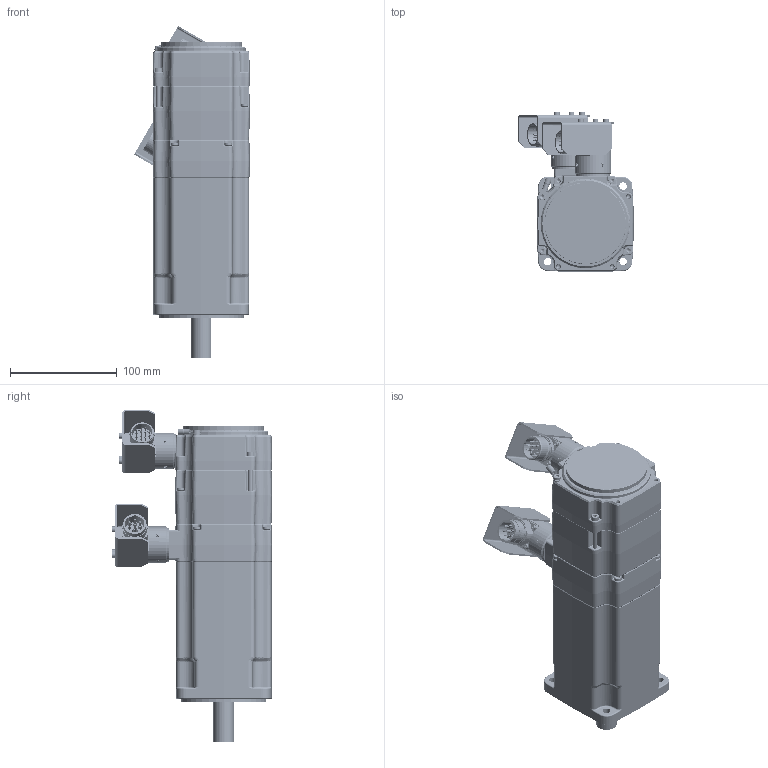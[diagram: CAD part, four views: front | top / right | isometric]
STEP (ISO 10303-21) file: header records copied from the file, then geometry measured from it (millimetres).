
FILE_DESCRIPTION((''),'2;1');
FILE_NAME('EY430EAR7310_ASM','2016-10-19T',('pf73167'),(''),'PRO/ENGINEER BY PARAMETRIC TECHNOLOGY CORPORATION, 2009400','PRO/ENGINEER BY PARAMETRIC TECHNOLOGY CORPORATION, 2009400','');
FILE_SCHEMA(('CONFIG_CONTROL_DESIGN'));
Length unit declared in the file: millimetre
Products named in the file (79): 344176P0027; 5116P1308; 1613P0123; 344174P0004; 344171P0002; 344212P0002; 344171P0002_ASM; 344175R0004_ASM; 5116P1315; 1711P0005; 1645P0017; 344170P0002; 344225R3000; 344561P0001; 344570P0002_ENROULE; 344228R3000_ASM; 344172P0010; 344173R3008_ASM; 5340P0069; 5320P0033; 1143P0415; 1821P0015; 1613P0043; 1613P0044; 1317P0303; 283154_05_P1BF102_AF0; 283154_05_P1F501_AF0; 283154P0037_ASM; 1150P0305; 344180P0001; 1613P0034; 1613P0035; 282280P0012; 220005P1002; 344509P0001; 343702P0002; 344094P0001; BOB_343505R0001; 343505R0001_ASM; 343703P0001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
Assembly tree (181 placements, depth 6):
  EY430EAR7310_ASM
    344176P0027
    5116P1308
    1613P0123
    344175R0004_ASM
      344174P0004
      344171P0002_ASM
        344171P0002  x10
        344212P0002  x2
    5116P1315
    1711P0005
    1645P0017  x2
    344173R3008_ASM
      344228R3000_ASM
        344170P0002
        344225R3000  x6
        344561P0001  x2
        344570P0002_ENROULE  x2
      344172P0010
    5340P0069  x3
    5320P0033
    1143P0415  x6
    1821P0015  x2
    1613P0043  x4
    1613P0044  x2
    1317P0303
    283154P0037_ASM
      283154_05_P1BF102_AF0
      283154_05_P1F501_AF0
    1150P0305  x4
    344180P0001
    1613P0034
    1613P0035
    282280P0012
    220005P1002
    344509P0001
    220005P0025_ASM
      343777R0002_ASM
        343776R0002_ASM
          343702P0002
          343505R0001_ASM
            344094P0001
            BOB_343505R0001
          343703P0001
          343761P0001
        343775R0001_ASM
          343503R0001_ASM
            343486P0001  x10
          BOB_343775R0001
        343827P0001
      343774R0001_ASM
        343504R0001_ASM
          343704P0001
          343717P0001
          343485P0001  x8
        BOB_343774_0001
    1643P0104  x3
    1143P0405  x3
    344180P0018
    1642P0104
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Bounding box: 108.48 x 150.2 x 310.74 mm (x, y, z)
Volume: 1425233.6 mm3; surface area: 553761.4 mm2
Topology: 171 solids, 172 shells, 10706 faces, 27429 edges, 17303 vertices
Faces by surface type: plane 4251, cylinder 4051, cone 1084, bspline 820, torus 452, sphere 28, extrusion 20
Entity records: 176646 total; most frequent: CARTESIAN_POINT 58140, ORIENTED_EDGE 24552, DIRECTION 24189, EDGE_CURVE 12276, AXIS2_PLACEMENT_3D 8886, VERTEX_POINT 7678, VECTOR 6417, LINE 6415
